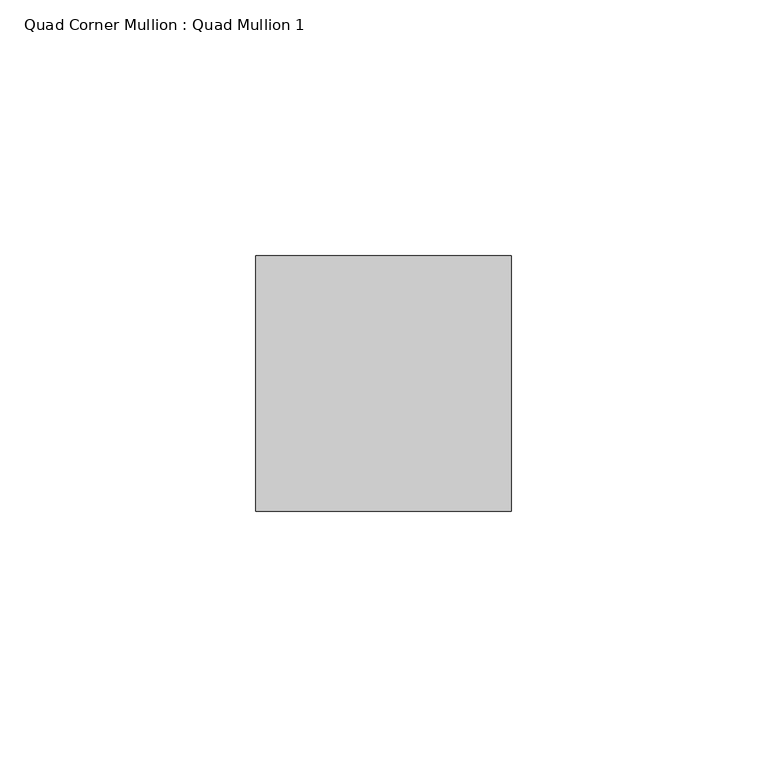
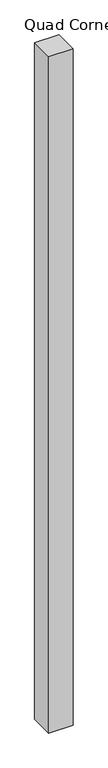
"""IFC4 building model written with IfcOpenShell, lengths in millimetres: member geometry, Quad Corner Mullion : Quad Mullion 1."""

import ifcopenshell
import ifcopenshell.guid

model = None  # the IFC model being written
_history = None  # IfcOwnerHistory: only IFC2X3 demands one
_inside = {}  # id of a spatial element -> (the spatial element, [elements in it])
_under = {}  # id of a project, library or spatial element -> (it, [spatial elements below it])
_declared = {}  # id of a project -> (the project, [libraries it declares])
_typed = {}  # id of a type object -> (the type object, [elements of that type])
_made_of = {}  # id of a material, layer set ... -> (it, [elements and type objects made of it])


def new_model(schema):
    """Start an empty IFC model of exactly this schema.

    Asked for "IFC4X3", IfcOpenShell would pick the latest addendum, in which some entities
    have other attributes; the version numbers below select the first issue.
    IFC2X3 requires an IfcOwnerHistory on every rooted entity: one is made here for all.
    """
    global model, _history
    if schema == "IFC4X3":
        model = ifcopenshell.file(schema_version=(4, 3, 0, 0))
    else:
        model = ifcopenshell.file(schema=schema)
    _inside.clear()
    _under.clear()
    _declared.clear()
    _typed.clear()
    _made_of.clear()
    _history = None
    if model.schema == "IFC2X3":
        org = make("IfcOrganization", Name="unknown")
        user = make(
            "IfcPersonAndOrganization",
            ThePerson=make("IfcPerson", FamilyName="unknown"),
            TheOrganization=org,
        )
        app = make(
            "IfcApplication",
            ApplicationDeveloper=org,
            Version="unknown",
            ApplicationFullName="unknown",
            ApplicationIdentifier="unknown",
        )
        _history = make(
            "IfcOwnerHistory",
            OwningUser=user,
            OwningApplication=app,
            ChangeAction="ADDED",
            CreationDate=0,
        )
    return model


def make(cls, **values):
    """One entity of the class cls with the attributes given. An attribute that is None is left unset."""
    return model.create_entity(
        cls, **{name: value for name, value in values.items() if value is not None}
    )


def rooted(cls, **values):
    """An entity with a GlobalId (a new one), such as an element, a storey or a relation."""
    return make(cls, GlobalId=ifcopenshell.guid.new(), OwnerHistory=_history, **values)


def si_unit(unit_type, name, prefix=None):
    """IfcSIUnit, for example si_unit("LENGTHUNIT", "METRE", prefix="MILLI")."""
    return make("IfcSIUnit", UnitType=unit_type, Prefix=prefix, Name=name)


def assignment(units):
    """IfcUnitAssignment: the units of a project."""
    return None if units is None else make("IfcUnitAssignment", Units=units)


def point(xyz):
    """IfcCartesianPoint."""
    return None if xyz is None else make("IfcCartesianPoint", Coordinates=xyz)


def direction(xyz):
    """IfcDirection."""
    return None if xyz is None else make("IfcDirection", DirectionRatios=xyz)


def frame(location, z_axis=None, x_axis=None):
    """IfcAxis2Placement3D, a coordinate frame: its origin and axes. An axis left out is left unset."""
    return make(
        "IfcAxis2Placement3D",
        Location=point(location),
        Axis=direction(z_axis),
        RefDirection=direction(x_axis),
    )


def origin():
    """The frame at (0, 0, 0) with its axes left unset."""
    return frame((0.0, 0.0, 0.0))


def place(relative_to, where):
    """IfcLocalPlacement: puts the frame where relative to a parent placement (None: the world)."""
    return make(
        "IfcLocalPlacement", PlacementRelTo=relative_to, RelativePlacement=where
    )


def context(
    kind, dimensions, precision=None, world=None, true_north=None, identifier=None
):
    """IfcGeometricRepresentationContext, for example the 3D "Model" context."""
    return make(
        "IfcGeometricRepresentationContext",
        ContextIdentifier=identifier,
        ContextType=kind,
        CoordinateSpaceDimension=dimensions,
        Precision=precision,
        WorldCoordinateSystem=world,
        TrueNorth=true_north,
    )


def project(units=None, contexts=None):
    """IfcProject with its units and contexts."""
    return rooted(
        "IfcProject",
        Name="project",
        RepresentationContexts=contexts,
        UnitsInContext=assignment(units),
    )


def spatial(cls, under=None, at=None, **own):
    """A site, building, storey or space (cls), placed at a placement, below another one or the project."""
    s = rooted(cls, ObjectPlacement=at, **own)
    if under is not None:
        _under.setdefault(under.id(), (under, []))[1].append(s)
    return s


def polyline(points):
    """IfcPolyline through the points."""
    return make("IfcPolyline", Points=[point(p) for p in points])


def outline(outer, holes=None, kind="AREA"):
    """IfcArbitraryClosedProfileDef: a profile drawn as a closed curve; with holes, ...WithVoids."""
    if holes is None:
        return make("IfcArbitraryClosedProfileDef", ProfileType=kind, OuterCurve=outer)
    return make(
        "IfcArbitraryProfileDefWithVoids",
        ProfileType=kind,
        OuterCurve=outer,
        InnerCurves=holes,
    )


def extrude(swept, where, along, depth):
    """IfcExtrudedAreaSolid: the profile swept, set in the frame where, extruded along a direction by depth."""
    return make(
        "IfcExtrudedAreaSolid",
        SweptArea=swept,
        Position=where,
        ExtrudedDirection=direction(along),
        Depth=depth,
    )


def shape(context_of_items, identifier, shape_type, items):
    """IfcShapeRepresentation: the items that make up one representation, for example the "Body"."""
    return make(
        "IfcShapeRepresentation",
        ContextOfItems=context_of_items,
        RepresentationIdentifier=identifier,
        RepresentationType=shape_type,
        Items=items,
    )


def source(mapping_origin, context_of_items, identifier, shape_type, items):
    """IfcRepresentationMap: a shape defined once, which mapped items show again and again."""
    return make(
        "IfcRepresentationMap",
        MappingOrigin=mapping_origin,
        MappedRepresentation=shape(context_of_items, identifier, shape_type, items),
    )


def transform(
    local_origin,
    x_axis=None,
    y_axis=None,
    z_axis=None,
    scale=None,
    scale2=None,
    scale3=None,
    uniform=True,
):
    """IfcCartesianTransformationOperator3D, or its non-uniform kind. x_axis, y_axis, z_axis: its Axis1, 2, 3."""
    if uniform:
        return make(
            "IfcCartesianTransformationOperator3D",
            Axis1=direction(x_axis),
            Axis2=direction(y_axis),
            LocalOrigin=point(local_origin),
            Scale=scale,
            Axis3=direction(z_axis),
        )
    return make(
        "IfcCartesianTransformationOperator3DnonUniform",
        Axis1=direction(x_axis),
        Axis2=direction(y_axis),
        LocalOrigin=point(local_origin),
        Scale=scale,
        Axis3=direction(z_axis),
        Scale2=scale2,
        Scale3=scale3,
    )


def mapped(mapping_source, mapping_target):
    """IfcMappedItem: shows the shape of a source again, moved by a transform."""
    return make(
        "IfcMappedItem", MappingSource=mapping_source, MappingTarget=mapping_target
    )


def made_of(thing, what):
    """Note that an element or type object is made of a material, layer set ...; save() writes the relation."""
    if what is not None:
        _made_of.setdefault(what.id(), (what, []))[1].append(thing)
    return thing


def element(
    cls,
    number,
    at=None,
    inside=None,
    cuts=None,
    type_object=None,
    material=None,
    context=None,
    identifier="Body",
    shape_type=None,
    held_by="IfcProductDefinitionShape",
    body=None,
    shapes=None,
    **own,
):
    """One element of the class cls, such as IfcWall. Its Tag is "e" and its number.

    at: its placement. inside: the storey or other place that contains it. cuts: it is an
    opening in that element (IfcRelVoidsElement). A single representation is given by context,
    identifier, shape_type and body (its items); several are given by shapes. held_by: the class
    of the entity that holds the representations. save() writes the other relations.
    """
    e = rooted(cls, Tag="e%d" % number, ObjectPlacement=at, **own)
    if body is not None:
        shapes = [shape(context, identifier, shape_type, body)]
    if shapes is not None:
        e.Representation = make(held_by, Representations=shapes)
    if inside is not None:
        _inside.setdefault(inside.id(), (inside, []))[1].append(e)
    if cuts is not None:
        rooted(
            "IfcRelVoidsElement", RelatingBuildingElement=cuts, RelatedOpeningElement=e
        )
    if type_object is not None:
        _typed.setdefault(type_object.id(), (type_object, []))[1].append(e)
    return made_of(e, material)


def aggregate(whole, parts):
    """IfcRelAggregates: a whole, such as a stair, and the parts it consists of."""
    return rooted("IfcRelAggregates", RelatingObject=whole, RelatedObjects=parts)


def save(model, path):
    """Write the relations noted so far, then the file.

    IfcRelAggregates (storeys below a building ...), IfcRelContainedInSpatialStructure (elements
    in a storey), IfcRelDefinesByType, IfcRelAssociatesMaterial and IfcRelDeclares: one each for
    every whole, place, type object, material and project.
    """
    for whole, parts in _under.values():
        aggregate(whole, parts)
    for where, things in _inside.values():
        rooted(
            "IfcRelContainedInSpatialStructure",
            RelatedElements=things,
            RelatingStructure=where,
        )
    for kind, things in _typed.values():
        rooted("IfcRelDefinesByType", RelatedObjects=things, RelatingType=kind)
    for what, things in _made_of.values():
        rooted("IfcRelAssociatesMaterial", RelatedObjects=things, RelatingMaterial=what)
    for by, libraries in _declared.values():
        rooted("IfcRelDeclares", RelatingContext=by, RelatedDefinitions=libraries)
    model.write(path)


def quad_corner_mullion_quad_mullion_1_9e25f116(model_context):
    return source(origin(), model_context, "Body", "SweptSolid", [
        extrude(outline(polyline([(25.0, 25.0), (25.0, -25.0), (-25.0, -25.0), (-25.0, 25.0), (25.0, 25.0)])), frame((0.0, 0.0, -1473.128151), z_axis=(0.0, 0.0, 1.0), x_axis=(1.0, 0.0, 0.0)), (0.0, 0.0, 1.0), 1473.128151),
    ])


if __name__ == "__main__":
    model = new_model("IFC4")
    model_context = context("Model", 3, world=origin())
    ifc_project = project(units=[si_unit("LENGTHUNIT", "METRE", prefix="MILLI")], contexts=[model_context])
    site = spatial("IfcSite", under=ifc_project)
    building = spatial("IfcBuilding", under=site)
    placement = place(None, origin())
    quad_corner_mullion_quad_mullion_1_shape = quad_corner_mullion_quad_mullion_1_9e25f116(model_context)
    element("IfcMember", 1, ObjectType="Quad Corner Mullion : Quad Mullion 1", at=placement, inside=building, context=model_context, shape_type="MappedRepresentation", body=[
        mapped(quad_corner_mullion_quad_mullion_1_shape, transform((0.0, 0.0, 0.0), x_axis=(1.0, 0.0, 0.0), y_axis=(0.0, 1.0, 0.0), z_axis=(0.0, 0.0, 1.0))),
    ])
    save(model, "model.ifc")
